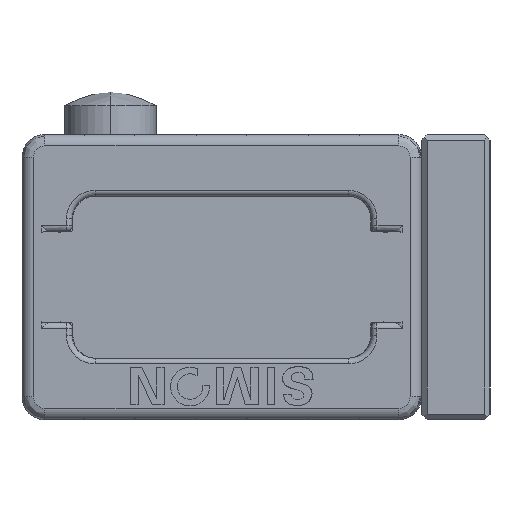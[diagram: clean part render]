
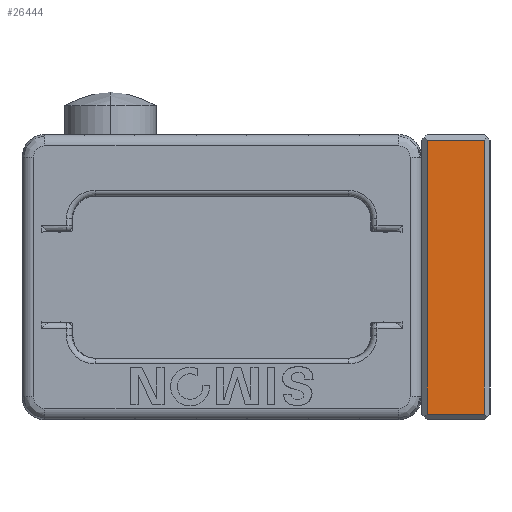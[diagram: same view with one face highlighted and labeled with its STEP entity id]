
A CAD part, left-side view. The second image highlights one B-rep face of the part: STEP entity #26444.
In plain terms, the highlighted planar face has unit normal (-1, 0, 0).
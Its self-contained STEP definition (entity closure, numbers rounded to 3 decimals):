
#2369=DIRECTION('',(0.,0.,-1.));
#2370=VECTOR('',#2369,24.);
#2371=CARTESIAN_POINT('',(-192.5,0.5,12.));
#2372=LINE('',#2371,#2370);
#2373=DIRECTION('',(0.,-1.,0.));
#2374=VECTOR('',#2373,5.);
#2375=CARTESIAN_POINT('',(-192.5,5.5,-12.));
#2376=LINE('',#2375,#2374);
#2377=DIRECTION('',(0.,0.,1.));
#2378=VECTOR('',#2377,24.);
#2379=CARTESIAN_POINT('',(-192.5,5.5,-12.));
#2380=LINE('',#2379,#2378);
#2381=DIRECTION('',(0.,-1.,0.));
#2382=VECTOR('',#2381,5.);
#2383=CARTESIAN_POINT('',(-192.5,5.5,12.));
#2384=LINE('',#2383,#2382);
#22027=CARTESIAN_POINT('',(-192.5,0.5,12.));
#22028=CARTESIAN_POINT('',(-192.5,0.5,-12.));
#22029=VERTEX_POINT('',#22027);
#22030=VERTEX_POINT('',#22028);
#22039=CARTESIAN_POINT('',(-192.5,5.5,12.));
#22040=VERTEX_POINT('',#22039);
#22041=CARTESIAN_POINT('',(-192.5,5.5,-12.));
#22042=VERTEX_POINT('',#22041);
#26430=CARTESIAN_POINT('',(-192.5,0.,-12.5));
#26431=DIRECTION('',(-1.,0.,0.));
#26432=DIRECTION('',(0.,0.,1.));
#26433=AXIS2_PLACEMENT_3D('',#26430,#26431,#26432);
#26434=PLANE('',#26433);
#26435=ORIENTED_EDGE('',*,*,#26409,.T.);
#26437=ORIENTED_EDGE('',*,*,#26436,.F.);
#26439=ORIENTED_EDGE('',*,*,#26438,.T.);
#26441=ORIENTED_EDGE('',*,*,#26440,.T.);
#26442=EDGE_LOOP('',(#26435,#26437,#26439,#26441));
#26443=FACE_OUTER_BOUND('',#26442,.F.);
#26409=EDGE_CURVE('',#22029,#22030,#2372,.T.);
#26436=EDGE_CURVE('',#22042,#22030,#2376,.T.);
#26438=EDGE_CURVE('',#22042,#22040,#2380,.T.);
#26440=EDGE_CURVE('',#22040,#22029,#2384,.T.);
#26444=ADVANCED_FACE('',(#26443),#26434,.T.);
